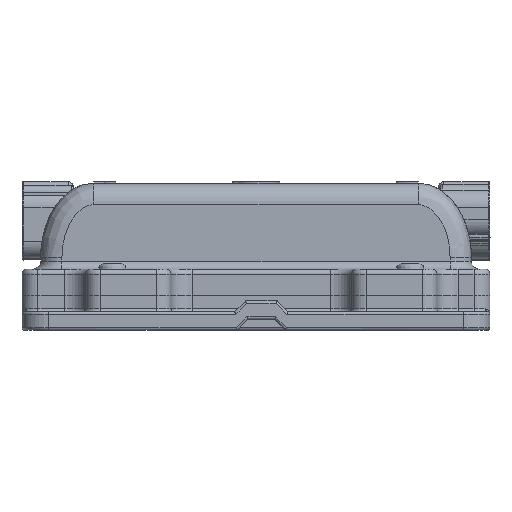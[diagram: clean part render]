
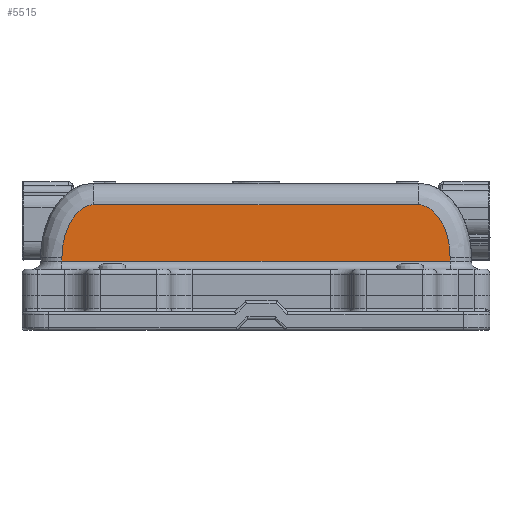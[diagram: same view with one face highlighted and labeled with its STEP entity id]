
A CAD part, left-side view. The second image highlights one B-rep face of the part: STEP entity #5515.
In plain terms, the highlighted planar face has unit normal (-1, 0, 0).
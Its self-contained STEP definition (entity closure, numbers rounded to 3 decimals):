
#758=LINE('',#27021,#2015);
#760=LINE('',#27026,#2017);
#762=LINE('',#27032,#2019);
#961=LINE('',#28437,#2218);
#2015=VECTOR('',#18966,1.);
#2017=VECTOR('',#18972,1.);
#2019=VECTOR('',#18978,1.);
#2218=VECTOR('',#19419,1.);
#3676=FACE_OUTER_BOUND('',#6692,.T.);
#4145=PLANE('',#16326);
#5515=ADVANCED_FACE('',(#3676),#4145,.F.);
#6692=EDGE_LOOP('',(#9741,#9742,#9743,#9744,#9745,#9746));
#9741=ORIENTED_EDGE('',*,*,#14001,.F.);
#9742=ORIENTED_EDGE('',*,*,#14004,.F.);
#9743=ORIENTED_EDGE('',*,*,#14285,.F.);
#9744=ORIENTED_EDGE('',*,*,#14286,.F.);
#9745=ORIENTED_EDGE('',*,*,#14284,.F.);
#9746=ORIENTED_EDGE('',*,*,#13998,.F.);
#12069=VERTEX_POINT('',#25423);
#12099=VERTEX_POINT('',#25749);
#12202=VERTEX_POINT('',#27022);
#12204=VERTEX_POINT('',#27031);
#12410=VERTEX_POINT('',#28278);
#12411=VERTEX_POINT('',#28436);
#13998=EDGE_CURVE('',#12069,#12202,#758,.T.);
#14001=EDGE_CURVE('',#12099,#12069,#760,.T.);
#14004=EDGE_CURVE('',#12204,#12099,#762,.T.);
#14284=EDGE_CURVE('',#12202,#12410,#15224,.T.);
#14285=EDGE_CURVE('',#12411,#12204,#15225,.T.);
#14286=EDGE_CURVE('',#12410,#12411,#961,.T.);
#15224=B_SPLINE_CURVE_WITH_KNOTS('',3,(#28279,#28280,#28281,#28282,#28283,
#28284,#28285,#28286,#28287,#28288,#28289,#28290,#28291,#28292,#28293,#28294,
#28295,#28296,#28297,#28298,#28299,#28300,#28301,#28302,#28303,#28304,#28305,
#28306,#28307,#28308,#28309,#28310,#28311,#28312,#28313,#28314,#28315,#28316,
#28317,#28318,#28319,#28320,#28321,#28322,#28323,#28324,#28325,#28326,#28327,
#28328,#28329,#28330,#28331,#28332,#28333,#28334,#28335,#28336,#28337,#28338,
#28339,#28340,#28341,#28342),.UNSPECIFIED.,.F.,.F.,(4,2,1,1,2,2,1,1,2,2,
2,2,1,2,2,1,2,2,2,1,2,2,2,2,2,2,2,2,2,2,2,2,1,2,2,4),(0.,0.25,
0.375,0.391,0.398,0.4,
0.402,0.406,0.437,0.5,
0.531,0.547,0.549,0.55,
0.551,0.555,0.562,0.625,
0.687,0.695,0.699,0.703,
0.719,0.75,0.812,0.844,
0.852,0.859,0.875,0.906,
0.922,0.926,0.93,0.937,
0.969,1.),.UNSPECIFIED.);
#15225=B_SPLINE_CURVE_WITH_KNOTS('',3,(#28413,#28414,#28415,#28416,#28417,
#28418,#28419,#28420,#28421,#28422,#28423,#28424,#28425,#28426,#28427,#28428,
#28429,#28430,#28431,#28432,#28433,#28434,#28435),.UNSPECIFIED.,.F.,.F.,
(4,1,1,1,1,1,1,1,1,1,1,1,1,1,1,1,1,1,1,1,4),(0.,0.014,0.029,
0.043,0.057,0.072,0.086,
0.1,0.115,0.129,0.143,
0.179,0.287,0.43,0.572,
0.626,0.786,0.839,0.893,
0.946,1.),.UNSPECIFIED.);
#16326=AXIS2_PLACEMENT_3D('',#28438,#19420,#19421);
#18966=DIRECTION('',(0.,0.,1.));
#18972=DIRECTION('',(0.,1.,0.));
#18978=DIRECTION('',(0.,0.,-1.));
#19419=DIRECTION('',(0.,-1.,0.));
#19420=DIRECTION('',(1.,0.,0.));
#19421=DIRECTION('',(0.,1.,0.));
#25423=CARTESIAN_POINT('',(-44.5,36.5,13.));
#25749=CARTESIAN_POINT('',(-44.5,-36.5,13.));
#27021=CARTESIAN_POINT('',(-44.5,36.5,13.7));
#27022=CARTESIAN_POINT('',(-44.5,36.5,13.7));
#27026=CARTESIAN_POINT('',(-44.5,-30.5,13.));
#27031=CARTESIAN_POINT('',(-44.5,-36.5,13.7));
#27032=CARTESIAN_POINT('',(-44.5,-36.5,13.7));
#28278=CARTESIAN_POINT('',(-44.5,30.5,23.6));
#28279=CARTESIAN_POINT('',(-44.5,36.5,13.7));
#28280=CARTESIAN_POINT('',(-44.5,36.5,14.756));
#28281=CARTESIAN_POINT('',(-44.5,36.393,15.793));
#28282=CARTESIAN_POINT('',(-44.5,36.068,17.321));
#28283=CARTESIAN_POINT('',(-44.5,35.913,17.893));
#28284=CARTESIAN_POINT('',(-44.5,35.709,18.483));
#28285=CARTESIAN_POINT('',(-44.5,35.675,18.576));
#28286=CARTESIAN_POINT('',(-44.5,35.661,18.615));
#28287=CARTESIAN_POINT('',(-44.5,35.659,18.62));
#28288=CARTESIAN_POINT('',(-44.5,35.65,18.646));
#28289=CARTESIAN_POINT('',(-44.5,35.636,18.685));
#28290=CARTESIAN_POINT('',(-44.5,35.546,18.924));
#28291=CARTESIAN_POINT('',(-44.5,35.463,19.126));
#28292=CARTESIAN_POINT('',(-44.5,35.253,19.61));
#28293=CARTESIAN_POINT('',(-44.5,35.129,19.858));
#28294=CARTESIAN_POINT('',(-44.5,34.987,20.128));
#28295=CARTESIAN_POINT('',(-44.5,34.947,20.201));
#28296=CARTESIAN_POINT('',(-44.5,34.9,20.286));
#28297=CARTESIAN_POINT('',(-44.5,34.886,20.311));
#28298=CARTESIAN_POINT('',(-44.5,34.873,20.334));
#28299=CARTESIAN_POINT('',(-44.5,34.871,20.337));
#28300=CARTESIAN_POINT('',(-44.5,34.869,20.341));
#28301=CARTESIAN_POINT('',(-44.5,34.868,20.343));
#28302=CARTESIAN_POINT('',(-44.5,34.865,20.349));
#28303=CARTESIAN_POINT('',(-44.5,34.852,20.371));
#28304=CARTESIAN_POINT('',(-44.5,34.823,20.422));
#28305=CARTESIAN_POINT('',(-44.5,34.793,20.473));
#28306=CARTESIAN_POINT('',(-44.5,34.614,20.775));
#28307=CARTESIAN_POINT('',(-44.5,34.455,21.015));
#28308=CARTESIAN_POINT('',(-44.5,34.144,21.442));
#28309=CARTESIAN_POINT('',(-44.5,33.994,21.628));
#28310=CARTESIAN_POINT('',(-44.5,33.836,21.81));
#28311=CARTESIAN_POINT('',(-44.5,33.81,21.839));
#28312=CARTESIAN_POINT('',(-44.5,33.784,21.868));
#28313=CARTESIAN_POINT('',(-44.5,33.767,21.887));
#28314=CARTESIAN_POINT('',(-44.5,33.748,21.908));
#28315=CARTESIAN_POINT('',(-44.5,33.668,21.995));
#28316=CARTESIAN_POINT('',(-44.5,33.605,22.061));
#28317=CARTESIAN_POINT('',(-44.5,33.42,22.248));
#28318=CARTESIAN_POINT('',(-44.5,33.3,22.36));
#28319=CARTESIAN_POINT('',(-44.5,32.956,22.659));
#28320=CARTESIAN_POINT('',(-44.5,32.749,22.809));
#28321=CARTESIAN_POINT('',(-44.5,32.491,22.979));
#28322=CARTESIAN_POINT('',(-44.5,32.413,23.026));
#28323=CARTESIAN_POINT('',(-44.5,32.329,23.075));
#28324=CARTESIAN_POINT('',(-44.5,32.316,23.082));
#28325=CARTESIAN_POINT('',(-44.5,32.27,23.108));
#28326=CARTESIAN_POINT('',(-44.5,32.246,23.121));
#28327=CARTESIAN_POINT('',(-44.5,32.173,23.161));
#28328=CARTESIAN_POINT('',(-44.5,32.121,23.188));
#28329=CARTESIAN_POINT('',(-44.5,31.956,23.269));
#28330=CARTESIAN_POINT('',(-44.5,31.834,23.323));
#28331=CARTESIAN_POINT('',(-44.5,31.629,23.4));
#28332=CARTESIAN_POINT('',(-44.5,31.557,23.424));
#28333=CARTESIAN_POINT('',(-44.5,31.463,23.453));
#28334=CARTESIAN_POINT('',(-44.5,31.439,23.461));
#28335=CARTESIAN_POINT('',(-44.5,31.426,23.464));
#28336=CARTESIAN_POINT('',(-44.5,31.405,23.471));
#28337=CARTESIAN_POINT('',(-44.5,31.379,23.478));
#28338=CARTESIAN_POINT('',(-44.5,31.283,23.504));
#28339=CARTESIAN_POINT('',(-44.5,31.174,23.531));
#28340=CARTESIAN_POINT('',(-44.5,30.888,23.579));
#28341=CARTESIAN_POINT('',(-44.5,30.711,23.6));
#28342=CARTESIAN_POINT('',(-44.5,30.5,23.6));
#28413=CARTESIAN_POINT('',(-44.5,-30.5,23.6));
#28414=CARTESIAN_POINT('',(-44.5,-30.56,23.599));
#28415=CARTESIAN_POINT('',(-44.5,-30.681,23.597));
#28416=CARTESIAN_POINT('',(-44.5,-30.861,23.581));
#28417=CARTESIAN_POINT('',(-44.5,-31.04,23.555));
#28418=CARTESIAN_POINT('',(-44.5,-31.217,23.52));
#28419=CARTESIAN_POINT('',(-44.5,-31.392,23.476));
#28420=CARTESIAN_POINT('',(-44.5,-31.565,23.423));
#28421=CARTESIAN_POINT('',(-44.5,-31.736,23.362));
#28422=CARTESIAN_POINT('',(-44.5,-31.903,23.293));
#28423=CARTESIAN_POINT('',(-44.5,-32.066,23.217));
#28424=CARTESIAN_POINT('',(-44.5,-32.307,23.092));
#28425=CARTESIAN_POINT('',(-44.5,-32.876,22.748));
#28426=CARTESIAN_POINT('',(-44.5,-33.789,21.948));
#28427=CARTESIAN_POINT('',(-44.5,-34.775,20.61));
#28428=CARTESIAN_POINT('',(-44.5,-35.402,19.324));
#28429=CARTESIAN_POINT('',(-44.5,-35.92,17.919));
#28430=CARTESIAN_POINT('',(-44.5,-36.196,16.825));
#28431=CARTESIAN_POINT('',(-44.5,-36.372,15.718));
#28432=CARTESIAN_POINT('',(-44.5,-36.446,15.049));
#28433=CARTESIAN_POINT('',(-44.5,-36.492,14.376));
#28434=CARTESIAN_POINT('',(-44.5,-36.497,13.925));
#28435=CARTESIAN_POINT('',(-44.5,-36.5,13.7));
#28436=CARTESIAN_POINT('',(-44.5,-30.5,23.6));
#28437=CARTESIAN_POINT('',(-44.5,-30.5,23.6));
#28438=CARTESIAN_POINT('',(-44.5,-30.5,13.7));
